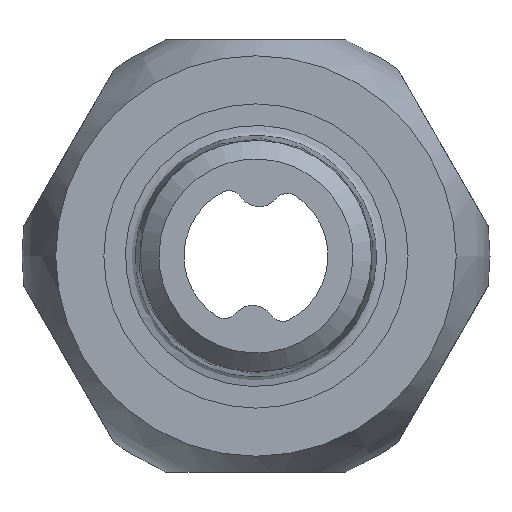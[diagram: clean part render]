
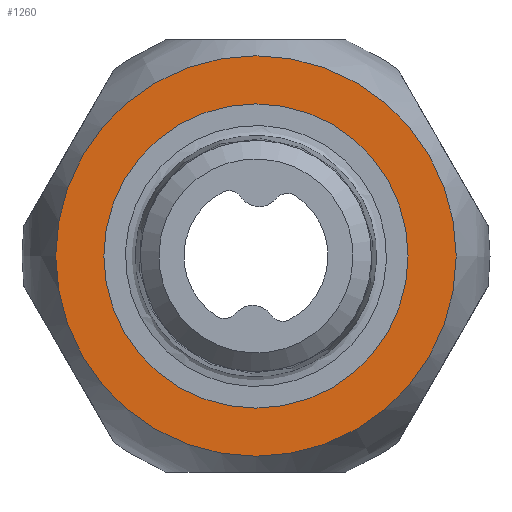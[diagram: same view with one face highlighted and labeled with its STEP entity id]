
A CAD part, left-side view. The second image highlights one B-rep face of the part: STEP entity #1260.
In plain terms, the highlighted planar face has unit normal (-1, 0, 0).
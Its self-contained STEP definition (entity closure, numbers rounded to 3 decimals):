
#1197=CARTESIAN_POINT('',(0.,11.124,0.0));
#1198=VERTEX_POINT('',#1197);
#1199=CARTESIAN_POINT('',(0.,0.0,0.0));
#1200=DIRECTION('',(1.0,0.0,0.0));
#1201=DIRECTION('',(0.0,1.0,0.0));
#1202=AXIS2_PLACEMENT_3D('',#1199,#1200,#1201);
#1203=CIRCLE('',#1202,11.124);
#1204=EDGE_CURVE('',#1198,#1198,#1203,.T.);
#1234=CARTESIAN_POINT('',(0.0,8.45,0.0));
#1235=VERTEX_POINT('',#1234);
#1236=CARTESIAN_POINT('',(0.0,0.0,0.0));
#1237=DIRECTION('',(1.0,0.0,0.0));
#1238=DIRECTION('',(0.0,1.0,0.0));
#1239=AXIS2_PLACEMENT_3D('',#1236,#1237,#1238);
#1240=CIRCLE('',#1239,8.45);
#1241=EDGE_CURVE('',#1235,#1235,#1240,.T.);
#1249=CARTESIAN_POINT('',(0.,9.787,0.0));
#1250=DIRECTION('',(-1.0,0.0,0.0));
#1251=DIRECTION('',(0.0,0.0,1.0));
#1252=AXIS2_PLACEMENT_3D('',#1249,#1250,#1251);
#1253=PLANE('',#1252);
#1254=ORIENTED_EDGE('',*,*,#1204,.F.);
#1255=EDGE_LOOP('',(#1254));
#1256=FACE_OUTER_BOUND('',#1255,.T.);
#1257=ORIENTED_EDGE('',*,*,#1241,.T.);
#1258=EDGE_LOOP('',(#1257));
#1259=FACE_BOUND('',#1258,.T.);
#1260=ADVANCED_FACE('',(#1256,#1259),#1253,.T.);
